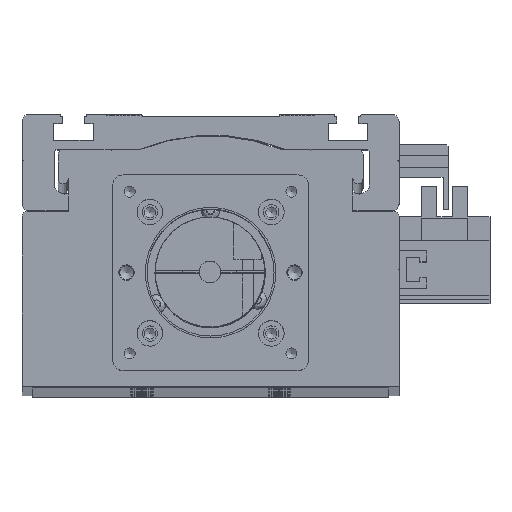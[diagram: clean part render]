
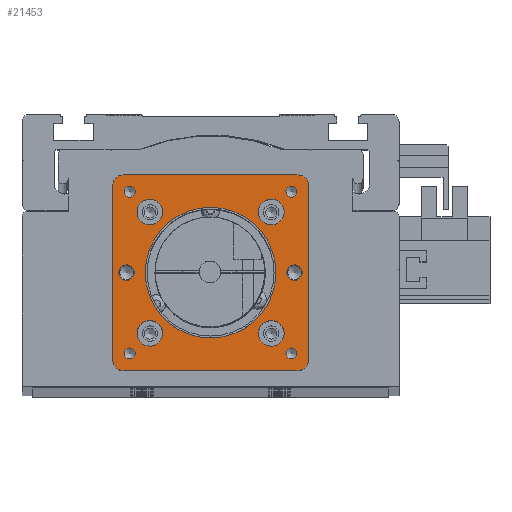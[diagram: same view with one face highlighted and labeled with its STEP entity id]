
A CAD part, top view. The second image highlights one B-rep face of the part: STEP entity #21453.
In plain terms, the highlighted planar face has unit normal (0, 0, 1).
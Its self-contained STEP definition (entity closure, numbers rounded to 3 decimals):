
#21217=CARTESIAN_POINT('',(54.0,57.0,0.0));
#21218=VERTEX_POINT('',#21217);
#21225=CARTESIAN_POINT('',(57.0,54.0,0.0));
#21226=VERTEX_POINT('',#21225);
#21227=CARTESIAN_POINT('',(54.0,54.0,0.0));
#21228=DIRECTION('',(0.0,0.0,-1.));
#21229=DIRECTION('',(0.707,0.707,0.0));
#21230=AXIS2_PLACEMENT_3D('',#21227,#21228,#21229);
#21231=CIRCLE('',#21230,3.);
#21232=EDGE_CURVE('',#21218,#21226,#21231,.T.);
#21249=CARTESIAN_POINT('',(57.0,3.,0.0));
#21250=VERTEX_POINT('',#21249);
#21251=CARTESIAN_POINT('',(57.0,3.,0.0));
#21252=DIRECTION('',(0.0,1.0,0.0));
#21253=VECTOR('',#21252,51.0);
#21254=LINE('',#21251,#21253);
#21255=EDGE_CURVE('',#21250,#21226,#21254,.T.);
#21274=CARTESIAN_POINT('',(28.5,28.5,0.0));
#21275=DIRECTION('',(0.0,0.0,1.0));
#21276=DIRECTION('',(1.0,0.0,0.0));
#21277=AXIS2_PLACEMENT_3D('',#21274,#21275,#21276);
#21278=PLANE('',#21277);
#21279=ORIENTED_EDGE('',*,*,#21232,.F.);
#21280=CARTESIAN_POINT('',(3.,57.0,0.0));
#21281=VERTEX_POINT('',#21280);
#21282=CARTESIAN_POINT('',(54.0,57.0,0.0));
#21283=DIRECTION('',(-1.0,0.0,0.0));
#21284=VECTOR('',#21283,51.0);
#21285=LINE('',#21282,#21284);
#21286=EDGE_CURVE('',#21218,#21281,#21285,.T.);
#21287=ORIENTED_EDGE('',*,*,#21286,.T.);
#21288=CARTESIAN_POINT('',(0.0,54.0,0.0));
#21289=VERTEX_POINT('',#21288);
#21290=CARTESIAN_POINT('',(3.,54.0,0.0));
#21291=DIRECTION('',(0.0,0.0,-1.0));
#21292=DIRECTION('',(-0.707,0.707,0.0));
#21293=AXIS2_PLACEMENT_3D('',#21290,#21291,#21292);
#21294=CIRCLE('',#21293,3.0);
#21295=EDGE_CURVE('',#21289,#21281,#21294,.T.);
#21296=ORIENTED_EDGE('',*,*,#21295,.F.);
#21297=CARTESIAN_POINT('',(0.0,3.,0.0));
#21298=VERTEX_POINT('',#21297);
#21299=CARTESIAN_POINT('',(0.0,54.0,0.0));
#21300=DIRECTION('',(0.0,-1.0,0.0));
#21301=VECTOR('',#21300,51.0);
#21302=LINE('',#21299,#21301);
#21303=EDGE_CURVE('',#21289,#21298,#21302,.T.);
#21304=ORIENTED_EDGE('',*,*,#21303,.T.);
#21305=CARTESIAN_POINT('',(3.,0.0,0.0));
#21306=VERTEX_POINT('',#21305);
#21307=CARTESIAN_POINT('',(3.,3.,0.0));
#21308=DIRECTION('',(0.0,0.0,-1.));
#21309=DIRECTION('',(-0.707,-0.707,0.0));
#21310=AXIS2_PLACEMENT_3D('',#21307,#21308,#21309);
#21311=CIRCLE('',#21310,3.);
#21312=EDGE_CURVE('',#21306,#21298,#21311,.T.);
#21313=ORIENTED_EDGE('',*,*,#21312,.F.);
#21314=CARTESIAN_POINT('',(54.0,0.0,0.0));
#21315=VERTEX_POINT('',#21314);
#21316=CARTESIAN_POINT('',(3.,0.0,0.0));
#21317=DIRECTION('',(1.0,0.0,0.0));
#21318=VECTOR('',#21317,51.0);
#21319=LINE('',#21316,#21318);
#21320=EDGE_CURVE('',#21306,#21315,#21319,.T.);
#21321=ORIENTED_EDGE('',*,*,#21320,.T.);
#21322=CARTESIAN_POINT('',(54.0,3.,0.0));
#21323=DIRECTION('',(0.0,0.0,-1.));
#21324=DIRECTION('',(0.707,-0.707,0.0));
#21325=AXIS2_PLACEMENT_3D('',#21322,#21323,#21324);
#21326=CIRCLE('',#21325,3.);
#21327=EDGE_CURVE('',#21250,#21315,#21326,.T.);
#21328=ORIENTED_EDGE('',*,*,#21327,.F.);
#21329=ORIENTED_EDGE('',*,*,#21255,.T.);
#21330=EDGE_LOOP('',(#21279,#21287,#21296,#21304,#21313,#21321,#21328,#21329));
#21331=FACE_OUTER_BOUND('',#21330,.T.);
#21332=CARTESIAN_POINT('',(6.25,28.5,0.0));
#21333=VERTEX_POINT('',#21332);
#21334=CARTESIAN_POINT('',(4.,28.5,0.0));
#21335=DIRECTION('',(0.0,0.0,-1.0));
#21336=DIRECTION('',(1.0,0.0,0.0));
#21337=AXIS2_PLACEMENT_3D('',#21334,#21335,#21336);
#21338=CIRCLE('',#21337,2.25);
#21339=EDGE_CURVE('',#21333,#21333,#21338,.T.);
#21340=ORIENTED_EDGE('',*,*,#21339,.T.);
#21341=EDGE_LOOP('',(#21340));
#21342=FACE_BOUND('',#21341,.T.);
#21343=CARTESIAN_POINT('',(55.25,28.5,0.0));
#21344=VERTEX_POINT('',#21343);
#21345=CARTESIAN_POINT('',(53.,28.5,0.0));
#21346=DIRECTION('',(0.0,0.0,-1.0));
#21347=DIRECTION('',(1.0,0.0,0.0));
#21348=AXIS2_PLACEMENT_3D('',#21345,#21346,#21347);
#21349=CIRCLE('',#21348,2.25);
#21350=EDGE_CURVE('',#21344,#21344,#21349,.T.);
#21351=ORIENTED_EDGE('',*,*,#21350,.T.);
#21352=EDGE_LOOP('',(#21351));
#21353=FACE_BOUND('',#21352,.T.);
#21354=CARTESIAN_POINT('',(6.546,4.925,0.0));
#21355=VERTEX_POINT('',#21354);
#21356=CARTESIAN_POINT('',(4.925,4.925,0.0));
#21357=DIRECTION('',(0.0,0.0,-1.0));
#21358=DIRECTION('',(1.0,0.0,0.0));
#21359=AXIS2_PLACEMENT_3D('',#21356,#21357,#21358);
#21360=CIRCLE('',#21359,1.621);
#21361=EDGE_CURVE('',#21355,#21355,#21360,.T.);
#21362=ORIENTED_EDGE('',*,*,#21361,.T.);
#21363=EDGE_LOOP('',(#21362));
#21364=FACE_BOUND('',#21363,.T.);
#21365=CARTESIAN_POINT('',(53.696,52.075,0.0));
#21366=VERTEX_POINT('',#21365);
#21367=CARTESIAN_POINT('',(52.075,52.075,0.0));
#21368=DIRECTION('',(0.0,0.0,-1.0));
#21369=DIRECTION('',(1.0,0.0,0.0));
#21370=AXIS2_PLACEMENT_3D('',#21367,#21368,#21369);
#21371=CIRCLE('',#21370,1.621);
#21372=EDGE_CURVE('',#21366,#21366,#21371,.T.);
#21373=ORIENTED_EDGE('',*,*,#21372,.T.);
#21374=EDGE_LOOP('',(#21373));
#21375=FACE_BOUND('',#21374,.T.);
#21376=CARTESIAN_POINT('',(6.546,52.075,0.0));
#21377=VERTEX_POINT('',#21376);
#21378=CARTESIAN_POINT('',(4.925,52.075,0.0));
#21379=DIRECTION('',(0.0,0.0,-1.0));
#21380=DIRECTION('',(1.0,0.0,0.0));
#21381=AXIS2_PLACEMENT_3D('',#21378,#21379,#21380);
#21382=CIRCLE('',#21381,1.621);
#21383=EDGE_CURVE('',#21377,#21377,#21382,.T.);
#21384=ORIENTED_EDGE('',*,*,#21383,.T.);
#21385=EDGE_LOOP('',(#21384));
#21386=FACE_BOUND('',#21385,.T.);
#21387=CARTESIAN_POINT('',(53.696,4.925,0.0));
#21388=VERTEX_POINT('',#21387);
#21389=CARTESIAN_POINT('',(52.075,4.925,0.0));
#21390=DIRECTION('',(0.0,0.0,-1.0));
#21391=DIRECTION('',(1.0,0.0,0.0));
#21392=AXIS2_PLACEMENT_3D('',#21389,#21390,#21391);
#21393=CIRCLE('',#21392,1.621);
#21394=EDGE_CURVE('',#21388,#21388,#21393,.T.);
#21395=ORIENTED_EDGE('',*,*,#21394,.T.);
#21396=EDGE_LOOP('',(#21395));
#21397=FACE_BOUND('',#21396,.T.);
#21398=CARTESIAN_POINT('',(49.95,10.8,0.0));
#21399=VERTEX_POINT('',#21398);
#21400=CARTESIAN_POINT('',(46.2,10.8,0.0));
#21401=DIRECTION('',(0.0,0.0,-1.0));
#21402=DIRECTION('',(1.0,0.0,0.0));
#21403=AXIS2_PLACEMENT_3D('',#21400,#21401,#21402);
#21404=CIRCLE('',#21403,3.75);
#21405=EDGE_CURVE('',#21399,#21399,#21404,.T.);
#21406=ORIENTED_EDGE('',*,*,#21405,.T.);
#21407=EDGE_LOOP('',(#21406));
#21408=FACE_BOUND('',#21407,.T.);
#21409=CARTESIAN_POINT('',(14.55,46.2,0.0));
#21410=VERTEX_POINT('',#21409);
#21411=CARTESIAN_POINT('',(10.8,46.2,0.0));
#21412=DIRECTION('',(0.0,0.0,-1.0));
#21413=DIRECTION('',(1.0,0.0,0.0));
#21414=AXIS2_PLACEMENT_3D('',#21411,#21412,#21413);
#21415=CIRCLE('',#21414,3.75);
#21416=EDGE_CURVE('',#21410,#21410,#21415,.T.);
#21417=ORIENTED_EDGE('',*,*,#21416,.T.);
#21418=EDGE_LOOP('',(#21417));
#21419=FACE_BOUND('',#21418,.T.);
#21420=CARTESIAN_POINT('',(49.95,46.2,0.0));
#21421=VERTEX_POINT('',#21420);
#21422=CARTESIAN_POINT('',(46.2,46.2,0.0));
#21423=DIRECTION('',(0.0,0.0,-1.0));
#21424=DIRECTION('',(1.0,0.0,0.0));
#21425=AXIS2_PLACEMENT_3D('',#21422,#21423,#21424);
#21426=CIRCLE('',#21425,3.75);
#21427=EDGE_CURVE('',#21421,#21421,#21426,.T.);
#21428=ORIENTED_EDGE('',*,*,#21427,.T.);
#21429=EDGE_LOOP('',(#21428));
#21430=FACE_BOUND('',#21429,.T.);
#21431=CARTESIAN_POINT('',(14.55,10.8,0.0));
#21432=VERTEX_POINT('',#21431);
#21433=CARTESIAN_POINT('',(10.8,10.8,0.0));
#21434=DIRECTION('',(0.0,0.0,-1.0));
#21435=DIRECTION('',(1.0,0.0,0.0));
#21436=AXIS2_PLACEMENT_3D('',#21433,#21434,#21435);
#21437=CIRCLE('',#21436,3.75);
#21438=EDGE_CURVE('',#21432,#21432,#21437,.T.);
#21439=ORIENTED_EDGE('',*,*,#21438,.T.);
#21440=EDGE_LOOP('',(#21439));
#21441=FACE_BOUND('',#21440,.T.);
#21442=CARTESIAN_POINT('',(47.55,28.5,0.0));
#21443=VERTEX_POINT('',#21442);
#21444=CARTESIAN_POINT('',(28.5,28.5,0.0));
#21445=DIRECTION('',(0.0,0.0,-1.0));
#21446=DIRECTION('',(-1.0,0.0,0.0));
#21447=AXIS2_PLACEMENT_3D('',#21444,#21445,#21446);
#21448=CIRCLE('',#21447,19.05);
#21449=EDGE_CURVE('',#21443,#21443,#21448,.T.);
#21450=ORIENTED_EDGE('',*,*,#21449,.T.);
#21451=EDGE_LOOP('',(#21450));
#21452=FACE_BOUND('',#21451,.T.);
#21453=ADVANCED_FACE('',(#21331,#21342,#21353,#21364,#21375,#21386,#21397,#21408,#21419,#21430,#21441,#21452),#21278,.T.);
